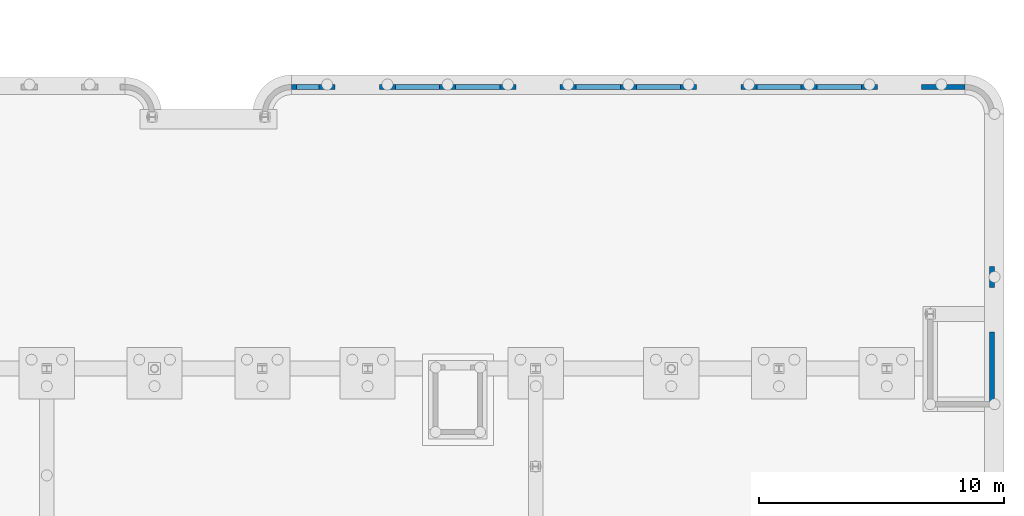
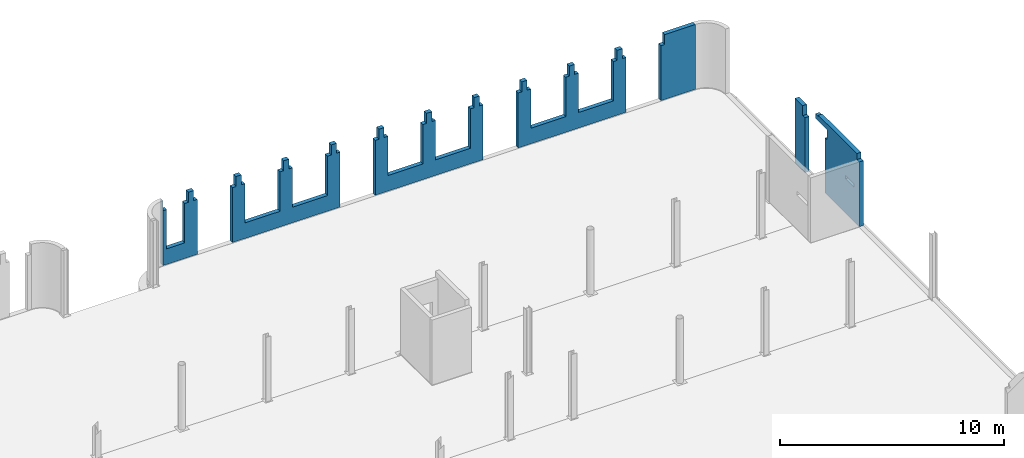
# One storey, part 26 of 26: 2 walls.
"""IFC2X3 building model written with IfcOpenShell, lengths in millimetres."""

import ifcopenshell
import ifcopenshell.guid

model = None  # the IFC model being written
_history = None  # IfcOwnerHistory: only IFC2X3 demands one
_inside = {}  # id of a spatial element -> (the spatial element, [elements in it])
_under = {}  # id of a project, library or spatial element -> (it, [spatial elements below it])
_declared = {}  # id of a project -> (the project, [libraries it declares])
_typed = {}  # id of a type object -> (the type object, [elements of that type])
_made_of = {}  # id of a material, layer set ... -> (it, [elements and type objects made of it])


def new_model(schema):
    """Start an empty IFC model of exactly this schema.

    Asked for "IFC4X3", IfcOpenShell would pick the latest addendum, in which some entities
    have other attributes; the version numbers below select the first issue.
    IFC2X3 requires an IfcOwnerHistory on every rooted entity: one is made here for all.
    """
    global model, _history
    if schema == "IFC4X3":
        model = ifcopenshell.file(schema_version=(4, 3, 0, 0))
    else:
        model = ifcopenshell.file(schema=schema)
    _inside.clear()
    _under.clear()
    _declared.clear()
    _typed.clear()
    _made_of.clear()
    _history = None
    if model.schema == "IFC2X3":
        org = make("IfcOrganization", Name="unknown")
        user = make(
            "IfcPersonAndOrganization",
            ThePerson=make("IfcPerson", FamilyName="unknown"),
            TheOrganization=org,
        )
        app = make(
            "IfcApplication",
            ApplicationDeveloper=org,
            Version="unknown",
            ApplicationFullName="unknown",
            ApplicationIdentifier="unknown",
        )
        _history = make(
            "IfcOwnerHistory",
            OwningUser=user,
            OwningApplication=app,
            ChangeAction="ADDED",
            CreationDate=0,
        )
    return model


def make(cls, **values):
    """One entity of the class cls with the attributes given. An attribute that is None is left unset."""
    return model.create_entity(
        cls, **{name: value for name, value in values.items() if value is not None}
    )


def entity(cls, *values):
    """Any entity or typed value of the class cls, its attributes in the order of the schema. None: left unset."""
    e = model.create_entity(cls)
    for i, value in enumerate(values):
        if value is not None:
            e[i] = value
    return e


def rooted(cls, **values):
    """An entity with a GlobalId (a new one), such as an element, a storey or a relation."""
    return make(cls, GlobalId=ifcopenshell.guid.new(), OwnerHistory=_history, **values)


def si_unit(unit_type, name, prefix=None):
    """IfcSIUnit, for example si_unit("LENGTHUNIT", "METRE", prefix="MILLI")."""
    return make("IfcSIUnit", UnitType=unit_type, Prefix=prefix, Name=name)


def converted_unit(unit_type, name, factor, base, dimensions=None, offset=None):
    """IfcConversionBasedUnit, such as the inch: factor (a typed value) times the base unit."""
    return make(
        "IfcConversionBasedUnit"
        if offset is None
        else "IfcConversionBasedUnitWithOffset",
        ConversionOffset=offset,
        Dimensions=None
        if dimensions is None
        else entity("IfcDimensionalExponents", *dimensions),
        UnitType=unit_type,
        Name=name,
        ConversionFactor=make(
            "IfcMeasureWithUnit", ValueComponent=factor, UnitComponent=base
        ),
    )


def derived_unit(unit_type, elements):
    """IfcDerivedUnit: a product of units, each with its exponent."""
    return make(
        "IfcDerivedUnit",
        Elements=[
            make("IfcDerivedUnitElement", Unit=unit, Exponent=power)
            for unit, power in elements
        ],
        UnitType=unit_type,
    )


def assignment(units):
    """IfcUnitAssignment: the units of a project."""
    return None if units is None else make("IfcUnitAssignment", Units=units)


def point(xyz):
    """IfcCartesianPoint."""
    return None if xyz is None else make("IfcCartesianPoint", Coordinates=xyz)


def direction(xyz):
    """IfcDirection."""
    return None if xyz is None else make("IfcDirection", DirectionRatios=xyz)


def frame(location, z_axis=None, x_axis=None):
    """IfcAxis2Placement3D, a coordinate frame: its origin and axes. An axis left out is left unset."""
    return make(
        "IfcAxis2Placement3D",
        Location=point(location),
        Axis=direction(z_axis),
        RefDirection=direction(x_axis),
    )


def origin():
    """The frame at (0, 0, 0) with its axes left unset."""
    return frame((0.0, 0.0, 0.0))


def place(relative_to, where):
    """IfcLocalPlacement: puts the frame where relative to a parent placement (None: the world)."""
    return make(
        "IfcLocalPlacement", PlacementRelTo=relative_to, RelativePlacement=where
    )


def context(
    kind, dimensions, precision=None, world=None, true_north=None, identifier=None
):
    """IfcGeometricRepresentationContext, for example the 3D "Model" context."""
    return make(
        "IfcGeometricRepresentationContext",
        ContextIdentifier=identifier,
        ContextType=kind,
        CoordinateSpaceDimension=dimensions,
        Precision=precision,
        WorldCoordinateSystem=world,
        TrueNorth=true_north,
    )


def subcontext(parent, identifier, kind, view, scale=None):
    """IfcGeometricRepresentationSubContext, for example "Body" below "Model"."""
    return make(
        "IfcGeometricRepresentationSubContext",
        ContextIdentifier=identifier,
        ContextType=kind,
        ParentContext=parent,
        TargetScale=scale,
        TargetView=view,
    )


def project(units=None, contexts=None):
    """IfcProject with its units and contexts."""
    return rooted(
        "IfcProject",
        Name="project",
        RepresentationContexts=contexts,
        UnitsInContext=assignment(units),
    )


def spatial(cls, under=None, at=None, **own):
    """A site, building, storey or space (cls), placed at a placement, below another one or the project."""
    s = rooted(cls, ObjectPlacement=at, **own)
    if under is not None:
        _under.setdefault(under.id(), (under, []))[1].append(s)
    return s


def faces_of(points, faces, orient=None, outer=None):
    """IfcFace entities. A face is a list of loops; a loop is a list of indices into points, from 0.

    orient and outer hold one flag for each loop. By default every Orientation is true, the
    first loop of a face is its IfcFaceOuterBound and the others are IfcFaceBound.
    """
    made = []
    for i, loops in enumerate(faces):
        bounds = []
        for j, loop in enumerate(loops):
            is_outer = j == 0 if outer is None else outer[i][j]
            bounds.append(
                make(
                    "IfcFaceOuterBound" if is_outer else "IfcFaceBound",
                    Bound=make("IfcPolyLoop", Polygon=[points[k] for k in loop]),
                    Orientation=True if orient is None else orient[i][j],
                )
            )
        made.append(make("IfcFace", Bounds=bounds))
    return made


def faceted_brep(points, faces, orient=None, outer=None, voids=None):
    """IfcFacetedBrep: a solid bounded by flat faces; with voids (closed shells), ...WithVoids."""
    shared = [point(p) for p in points]
    hull = make("IfcClosedShell", CfsFaces=faces_of(shared, faces, orient, outer))
    if voids is None:
        return make("IfcFacetedBrep", Outer=hull)
    return make(
        "IfcFacetedBrepWithVoids",
        Outer=hull,
        Voids=[
            make(cls, CfsFaces=faces_of(shared, fs, o, b)) for cls, fs, o, b in voids
        ],
    )


def shape(context_of_items, identifier, shape_type, items):
    """IfcShapeRepresentation: the items that make up one representation, for example the "Body"."""
    return make(
        "IfcShapeRepresentation",
        ContextOfItems=context_of_items,
        RepresentationIdentifier=identifier,
        RepresentationType=shape_type,
        Items=items,
    )


def material(Name=None, Category=None):
    """IfcMaterial."""
    return make("IfcMaterial", Name=Name, Category=Category)


def layer(
    of_material, thickness, ventilated=None, Name=None, Category=None, Priority=None
):
    """IfcMaterialLayer: one layer of a wall or slab, of a material (None: an air gap)."""
    return make(
        "IfcMaterialLayer",
        Material=of_material,
        LayerThickness=thickness,
        IsVentilated=ventilated,
        Name=Name,
        Category=Category,
        Priority=Priority,
    )


def layer_set(layers, Name=None):
    """IfcMaterialLayerSet."""
    return make("IfcMaterialLayerSet", MaterialLayers=layers, LayerSetName=Name)


def made_of(thing, what):
    """Note that an element or type object is made of a material, layer set ...; save() writes the relation."""
    if what is not None:
        _made_of.setdefault(what.id(), (what, []))[1].append(thing)
    return thing


def type_object(cls, material=None, **own):
    """A type object (cls), such as IfcWallType, which elements share."""
    return made_of(rooted(cls, **own), material)


def element(
    cls,
    number,
    at=None,
    inside=None,
    cuts=None,
    type_object=None,
    material=None,
    context=None,
    identifier="Body",
    shape_type=None,
    held_by="IfcProductDefinitionShape",
    body=None,
    shapes=None,
    **own,
):
    """One element of the class cls, such as IfcWall. Its Tag is "e" and its number.

    at: its placement. inside: the storey or other place that contains it. cuts: it is an
    opening in that element (IfcRelVoidsElement). A single representation is given by context,
    identifier, shape_type and body (its items); several are given by shapes. held_by: the class
    of the entity that holds the representations. save() writes the other relations.
    """
    e = rooted(cls, Tag="e%d" % number, ObjectPlacement=at, **own)
    if body is not None:
        shapes = [shape(context, identifier, shape_type, body)]
    if shapes is not None:
        e.Representation = make(held_by, Representations=shapes)
    if inside is not None:
        _inside.setdefault(inside.id(), (inside, []))[1].append(e)
    if cuts is not None:
        rooted(
            "IfcRelVoidsElement", RelatingBuildingElement=cuts, RelatedOpeningElement=e
        )
    if type_object is not None:
        _typed.setdefault(type_object.id(), (type_object, []))[1].append(e)
    return made_of(e, material)


def aggregate(whole, parts):
    """IfcRelAggregates: a whole, such as a stair, and the parts it consists of."""
    return rooted("IfcRelAggregates", RelatingObject=whole, RelatedObjects=parts)


def save(model, path):
    """Write the relations noted so far, then the file.

    IfcRelAggregates (storeys below a building ...), IfcRelContainedInSpatialStructure (elements
    in a storey), IfcRelDefinesByType, IfcRelAssociatesMaterial and IfcRelDeclares: one each for
    every whole, place, type object, material and project.
    """
    for whole, parts in _under.values():
        aggregate(whole, parts)
    for where, things in _inside.values():
        rooted(
            "IfcRelContainedInSpatialStructure",
            RelatedElements=things,
            RelatingStructure=where,
        )
    for kind, things in _typed.values():
        rooted("IfcRelDefinesByType", RelatedObjects=things, RelatingType=kind)
    for what, things in _made_of.values():
        rooted("IfcRelAssociatesMaterial", RelatedObjects=things, RelatingMaterial=what)
    for by, libraries in _declared.values():
        rooted("IfcRelDeclares", RelatingContext=by, RelatedDefinitions=libraries)
    model.write(path)


model = new_model("IFC2X3")

# Units and contexts
model_context = context("Model", 3, precision=0.01, world=origin(), true_north=direction((6.123031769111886e-17, 1.0)))
body_context = subcontext(model_context, "Body", "Model", "MODEL_VIEW")
ifc_project = project(units=[si_unit("LENGTHUNIT", "METRE", prefix="MILLI"), si_unit("AREAUNIT", "SQUARE_METRE"), si_unit("VOLUMEUNIT", "CUBIC_METRE"), derived_unit("MASSDENSITYUNIT", [(si_unit("MASSUNIT", "GRAM", prefix="KILO"), 1), (si_unit("LENGTHUNIT", "METRE"), -3)]), si_unit("MASSUNIT", "GRAM", prefix="KILO"), converted_unit("PLANEANGLEUNIT", "DEGREE", entity("IfcPlaneAngleMeasure", 0.017453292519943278), si_unit("PLANEANGLEUNIT", "RADIAN"), dimensions=[0, 0, 0, 0, 0, 0, 0])], contexts=[model_context])

# Site, building, storey
site_placement = place(None, origin())
site = spatial("IfcSite", under=ifc_project, at=site_placement, Name="Default", CompositionType="ELEMENT")
building_placement = place(site_placement, origin())
building = spatial("IfcBuilding", under=site, at=building_placement, Name="AT constructie", CompositionType="ELEMENT")
storey_placement = place(building_placement, origin())
storey = spatial("IfcBuildingStorey", under=building, at=storey_placement, Name="00 begane grond", CompositionType="ELEMENT", Elevation=-1.0828671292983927e-12)

# Walls
ifc_material = material(Name="f1_kalkzandsteen_CS36")
ifc_layer = layer(ifc_material, 214.0)
ifc_layer_set = layer_set([ifc_layer], Name="Basic Wall:NLRS_22_WA_kalkzandsteen 214_CS36 gen_AT")
wall_type = type_object("IfcWallType", Name="NLRS_22_WA_kalkzandsteen 214_CS36 gen_AT", PredefinedType="STANDARD", material=ifc_layer_set)
wall_1_placement = place(storey_placement, frame((79446.87463111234, 42764.043508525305, -50.0)))
element("IfcWall", 1, at=wall_1_placement, inside=storey, type_object=wall_type, Name="Basic Wall:NLRS_22_WA_kalkzandsteen 214_CS36 gen_AT", ObjectType="Basic Wall:NLRS_22_WA_kalkzandsteen 214_CS36 gen_AT", context=body_context, shape_type="Brep", body=[
    faceted_brep([(0.0, -107.0, 3544.0), (0.0, -107.0, 0.0), (1775.0, -107.0, 0.0), (1775.0, -107.0, 3000.0), (1585.0, -107.0, 3000.0), (1585.0, -107.0, 3544.0), (1315.0, -107.0, 3544.0), (1315.0, -107.0, 3000.0), (1125.0, -107.0, 3000.0), (1125.0, -107.0, 850.0), (195.0, -107.0, 850.0), (195.0, -107.0, 3000.0), (5.0, -107.0, 3000.0), (5.0, -107.0, 3544.0), (0.0, 107.0, 0.0), (1775.0, 107.0, 0.0), (0.0, 107.0, 3544.0), (1125.0, 107.0, 850.0), (195.0, 107.0, 850.0), (1125.0, 107.0, 3000.0), (195.0, 107.0, 3000.0), (1585.0, 107.0, 3000.0), (1585.0, 107.0, 3544.0), (1775.0, 107.0, 3000.0), (5.0, 107.0, 3000.0), (5.0, 107.0, 3544.0), (1315.0, 107.0, 3000.0), (1315.0, 107.0, 3544.0)], [[[0, 1, 2, 3, 4, 5, 6, 7, 8, 9, 10, 11, 12, 13]], [[1, 14, 15, 2]], [[1, 0, 16, 14]], [[9, 17, 18, 10]], [[17, 9, 8, 19]], [[10, 18, 20, 11]], [[4, 21, 22, 5]], [[21, 4, 3, 23]], [[12, 24, 25, 13]], [[26, 7, 6, 27]], [[24, 12, 11, 20]], [[3, 2, 15, 23]], [[7, 26, 19, 8]], [[5, 22, 27, 6]], [[16, 0, 13, 25]], [[14, 16, 25, 24, 20, 18, 17, 19, 26, 27, 22, 21, 23, 15]]]),
    faceted_brep([(27500.0, 107.0, 3544.0), (27500.0, 107.0, 0.0), (25725.0, 107.0, 0.0), (25725.0, 107.0, 3000.0), (25915.0, 107.0, 3000.0), (25915.0, 107.0, 3544.0), (27500.0, -107.0, 3544.0), (27500.0, -107.0, 0.0), (25915.0, -107.0, 3000.0), (25915.0, -107.0, 3544.0), (25725.0, -107.0, 0.0), (25725.0, -107.0, 3000.0)], [[[0, 1, 2, 3, 4, 5]], [[6, 7, 1, 0]], [[4, 8, 9, 5]], [[10, 11, 3, 2]], [[8, 4, 3, 11]], [[6, 0, 5, 9]], [[1, 7, 10, 2]], [[7, 6, 9, 8, 11, 10]]]),
    faceted_brep([(23725.0, -107.0, 3544.0), (23725.0, 107.0, 3544.0), (23455.0, 107.0, 3544.0), (23455.0, -107.0, 3544.0), (23725.0, -107.0, 3000.0), (23725.0, 107.0, 3000.0), (23915.0, -107.0, 3000.0), (23915.0, 107.0, 3000.0), (21265.0, -107.0, 3000.0), (21265.0, 107.0, 3000.0), (21265.0, 107.0, 3544.0), (21265.0, -107.0, 3544.0), (23455.0, 107.0, 3000.0), (23455.0, -107.0, 3000.0), (21455.0, -107.0, 3000.0), (21455.0, 107.0, 3000.0), (18805.0, -107.0, 3000.0), (18805.0, 107.0, 3000.0), (18805.0, 107.0, 3544.0), (18805.0, -107.0, 3544.0), (20995.0, 107.0, 3000.0), (20995.0, -107.0, 3000.0), (20995.0, -107.0, 3544.0), (20995.0, 107.0, 3544.0), (18995.0, -107.0, 3000.0), (18995.0, 107.0, 3000.0), (18535.0, 107.0, 3000.0), (18535.0, -107.0, 3000.0), (18535.0, -107.0, 3544.0), (18535.0, 107.0, 3544.0), (18345.0, -107.0, 0.0), (18345.0, -107.0, 3000.0), (18345.0, 107.0, 3000.0), (18345.0, 107.0, 0.0), (18995.0, -107.0, 850.0), (18995.0, 107.0, 850.0), (20805.0, -107.0, 850.0), (20805.0, -107.0, 3000.0), (20805.0, 107.0, 3000.0), (20805.0, 107.0, 850.0), (21455.0, -107.0, 850.0), (21455.0, 107.0, 850.0), (23265.0, -107.0, 850.0), (23265.0, -107.0, 3000.0), (23265.0, 107.0, 3000.0), (23265.0, 107.0, 850.0), (23915.0, -107.0, 0.0), (23915.0, 107.0, 0.0)], [[[0, 1, 2, 3]], [[4, 5, 1, 0]], [[5, 4, 6, 7]], [[8, 9, 10, 11]], [[12, 13, 3, 2]], [[9, 8, 14, 15]], [[16, 17, 18, 19]], [[20, 21, 22, 23]], [[17, 16, 24, 25]], [[26, 27, 28, 29]], [[30, 31, 32, 33]], [[24, 34, 35, 25]], [[36, 37, 38, 39]], [[14, 40, 41, 15]], [[42, 43, 44, 45]], [[6, 46, 47, 7]], [[35, 34, 36, 39]], [[41, 40, 42, 45]], [[27, 26, 32, 31]], [[21, 20, 38, 37]], [[13, 12, 44, 43]], [[11, 10, 23, 22]], [[19, 18, 29, 28]], [[30, 33, 47, 46]], [[1, 5, 7, 47, 33, 32, 26, 29, 18, 17, 25, 35, 39, 38, 20, 23, 10, 9, 15, 41, 45, 44, 12, 2]], [[4, 0, 3, 13, 43, 42, 40, 14, 8, 11, 22, 21, 37, 36, 34, 24, 16, 19, 28, 27, 31, 30, 46, 6]]]),
    faceted_brep([(4045.0, -107.0, 3000.0), (4045.0, 107.0, 3000.0), (4045.0, 107.0, 3544.0), (4045.0, -107.0, 3544.0), (6235.0, 107.0, 3000.0), (6235.0, -107.0, 3000.0), (6235.0, -107.0, 3544.0), (6235.0, 107.0, 3544.0), (4235.0, -107.0, 3000.0), (4235.0, 107.0, 3000.0), (8965.0, -107.0, 3000.0), (8965.0, 107.0, 3000.0), (8965.0, 107.0, 3544.0), (8965.0, -107.0, 3544.0), (9155.0, -107.0, 3000.0), (9155.0, 107.0, 3000.0), (6505.0, -107.0, 3000.0), (6505.0, 107.0, 3000.0), (6505.0, 107.0, 3544.0), (6505.0, -107.0, 3544.0), (8695.0, 107.0, 3000.0), (8695.0, -107.0, 3000.0), (8695.0, -107.0, 3544.0), (8695.0, 107.0, 3544.0), (6695.0, -107.0, 3000.0), (6695.0, 107.0, 3000.0), (3775.0, 107.0, 3000.0), (3775.0, -107.0, 3000.0), (3775.0, -107.0, 3544.0), (3775.0, 107.0, 3544.0), (3585.0, -107.0, 0.0), (3585.0, -107.0, 3000.0), (3585.0, 107.0, 3000.0), (3585.0, 107.0, 0.0), (4235.0, -107.0, 850.0), (4235.0, 107.0, 850.0), (6045.0, -107.0, 850.0), (6045.0, -107.0, 3000.0), (6045.0, 107.0, 3000.0), (6045.0, 107.0, 850.0), (6695.0, -107.0, 850.0), (6695.0, 107.0, 850.0), (8505.0, -107.0, 850.0), (8505.0, -107.0, 3000.0), (8505.0, 107.0, 3000.0), (8505.0, 107.0, 850.0), (9155.0, -107.0, 0.0), (9155.0, 107.0, 0.0)], [[[0, 1, 2, 3]], [[4, 5, 6, 7]], [[1, 0, 8, 9]], [[10, 11, 12, 13]], [[11, 10, 14, 15]], [[16, 17, 18, 19]], [[20, 21, 22, 23]], [[17, 16, 24, 25]], [[26, 27, 28, 29]], [[30, 31, 32, 33]], [[8, 34, 35, 9]], [[36, 37, 38, 39]], [[24, 40, 41, 25]], [[42, 43, 44, 45]], [[14, 46, 47, 15]], [[35, 34, 36, 39]], [[41, 40, 42, 45]], [[27, 26, 32, 31]], [[21, 20, 44, 43]], [[5, 4, 38, 37]], [[13, 12, 23, 22]], [[3, 2, 29, 28]], [[7, 6, 19, 18]], [[30, 33, 47, 46]], [[2, 1, 9, 35, 39, 38, 4, 7, 18, 17, 25, 41, 45, 44, 20, 23, 12, 11, 15, 47, 33, 32, 26, 29]], [[0, 3, 28, 27, 31, 30, 46, 14, 10, 13, 22, 21, 43, 42, 40, 24, 16, 19, 6, 5, 37, 36, 34, 8]]]),
    faceted_brep([(16345.0, -107.0, 3000.0), (16345.0, 107.0, 3000.0), (16345.0, 107.0, 3544.0), (16345.0, -107.0, 3544.0), (16535.0, -107.0, 3000.0), (16535.0, 107.0, 3000.0), (13885.0, -107.0, 3000.0), (13885.0, 107.0, 3000.0), (13885.0, 107.0, 3544.0), (13885.0, -107.0, 3544.0), (16075.0, 107.0, 3000.0), (16075.0, -107.0, 3000.0), (16075.0, -107.0, 3544.0), (16075.0, 107.0, 3544.0), (14075.0, -107.0, 3000.0), (14075.0, 107.0, 3000.0), (11425.0, -107.0, 3000.0), (11425.0, 107.0, 3000.0), (11425.0, 107.0, 3544.0), (11425.0, -107.0, 3544.0), (13615.0, 107.0, 3000.0), (13615.0, -107.0, 3000.0), (13615.0, -107.0, 3544.0), (13615.0, 107.0, 3544.0), (11615.0, -107.0, 3000.0), (11615.0, 107.0, 3000.0), (11155.0, 107.0, 3000.0), (11155.0, -107.0, 3000.0), (11155.0, -107.0, 3544.0), (11155.0, 107.0, 3544.0), (10965.0, -107.0, 0.0), (10965.0, -107.0, 3000.0), (10965.0, 107.0, 3000.0), (10965.0, 107.0, 0.0), (11615.0, -107.0, 850.0), (11615.0, 107.0, 850.0), (13425.0, -107.0, 850.0), (13425.0, -107.0, 3000.0), (13425.0, 107.0, 3000.0), (13425.0, 107.0, 850.0), (14075.0, -107.0, 850.0), (14075.0, 107.0, 850.0), (15885.0, -107.0, 850.0), (15885.0, -107.0, 3000.0), (15885.0, 107.0, 3000.0), (15885.0, 107.0, 850.0), (16535.0, -107.0, 0.0), (16535.0, 107.0, 0.0)], [[[0, 1, 2, 3]], [[1, 0, 4, 5]], [[6, 7, 8, 9]], [[10, 11, 12, 13]], [[7, 6, 14, 15]], [[16, 17, 18, 19]], [[20, 21, 22, 23]], [[17, 16, 24, 25]], [[26, 27, 28, 29]], [[30, 31, 32, 33]], [[24, 34, 35, 25]], [[36, 37, 38, 39]], [[14, 40, 41, 15]], [[42, 43, 44, 45]], [[4, 46, 47, 5]], [[35, 34, 36, 39]], [[41, 40, 42, 45]], [[27, 26, 32, 31]], [[21, 20, 38, 37]], [[11, 10, 44, 43]], [[3, 2, 13, 12]], [[9, 8, 23, 22]], [[19, 18, 29, 28]], [[30, 33, 47, 46]], [[2, 1, 5, 47, 33, 32, 26, 29, 18, 17, 25, 35, 39, 38, 20, 23, 8, 7, 15, 41, 45, 44, 10, 13]], [[0, 3, 12, 11, 43, 42, 40, 14, 6, 9, 22, 21, 37, 36, 34, 24, 16, 19, 28, 27, 31, 30, 46, 4]]]),
])
wall_2_placement = place(storey_placement, frame((108039.87463111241, 35446.043508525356, -50.0), z_axis=(0.0, 0.0, 1.0), x_axis=(0.0, -1.0, 0.0)))
element("IfcWall", 2, at=wall_2_placement, inside=storey, type_object=wall_type, Name="Basic Wall:NLRS_22_WA_kalkzandsteen 214_CS36 gen_AT", ObjectType="Basic Wall:NLRS_22_WA_kalkzandsteen 214_CS36 gen_AT", context=body_context, shape_type="Brep", body=[
    faceted_brep([(870.0, -107.0, 0.0), (870.0, -107.0, 3000.0), (680.0, -107.0, 3000.0), (680.0, -107.0, 3544.0), (0.0, -107.0, 3544.0), (0.0, -107.0, 0.0), (0.0, 107.0, 0.0), (870.0, 107.0, 0.0), (0.0, 107.0, 3544.0), (870.0, 107.0, 3000.0), (680.0, 107.0, 3000.0), (680.0, 107.0, 3544.0)], [[[0, 1, 2, 3, 4, 5]], [[5, 6, 7, 0]], [[6, 5, 4, 8]], [[7, 9, 1, 0]], [[2, 10, 11, 3]], [[10, 2, 1, 9]], [[4, 3, 11, 8]], [[9, 7, 6, 8, 11, 10]]]),
    faceted_brep([(2680.0, 107.0, 0.0), (2680.0, 107.0, 3000.0), (2870.0, 107.0, 3000.0), (2870.0, 107.0, 3544.0), (1815.0, 107.0, 3544.0), (1815.0, 107.0, 3804.0), (2075.0, 107.0, 3804.0), (2075.0, 107.0, 3864.0), (5525.0, 107.0, 3864.0), (5525.0, 107.0, 3804.0), (5525.0, 107.0, 3544.0), (5739.0, 107.0, 3544.0), (5739.0, 107.0, 0.0), (5283.54208926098, 107.0, 1874.0), (5283.54208926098, 107.0, 2074.0), (4503.542089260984, 107.0, 2074.0), (4503.54208926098, 107.0, 1874.0), (5739.0, -107.0, 0.0), (5739.0, -107.0, 3544.0), (2680.0, -107.0, 0.0), (2680.0, -107.0, 3000.0), (2870.0, -107.0, 3000.0), (2870.0, -107.0, 3544.0), (1815.0, -107.0, 3544.0), (2075.0, -107.0, 3864.0), (5525.0, -107.0, 3864.0), (1815.0, -107.0, 3804.0), (2075.0, -107.0, 3804.0), (5283.542089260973, -107.0, 1874.0), (5283.542089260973, -107.0, 2074.0), (4503.542089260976, -107.0, 2074.0), (4503.542089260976, -107.0, 1874.0), (5525.0, -107.0, 3544.0)], [[[0, 1, 2, 3, 4, 5, 6, 7, 8, 9, 10, 11, 12], [13, 14, 15, 16]], [[17, 12, 11, 18]], [[1, 0, 19, 20]], [[2, 21, 22, 3]], [[3, 22, 23, 4]], [[7, 24, 25, 8]], [[23, 26, 5, 4]], [[27, 6, 5, 26]], [[6, 27, 24, 7]], [[13, 28, 29, 14]], [[15, 30, 31, 16]], [[14, 29, 30, 15]], [[28, 13, 16, 31]], [[32, 10, 9, 8, 25]], [[10, 32, 18, 11]], [[21, 2, 1, 20]], [[12, 17, 19, 0]], [[20, 19, 17, 18, 32, 25, 24, 27, 26, 23, 22, 21], [29, 28, 31, 30]]]),
])

save(model, "model.ifc")
